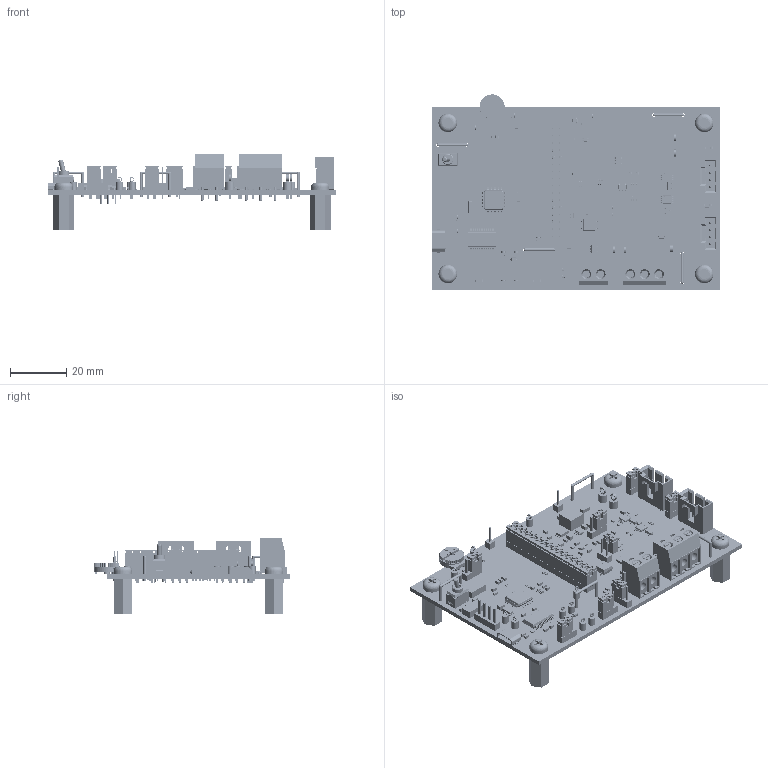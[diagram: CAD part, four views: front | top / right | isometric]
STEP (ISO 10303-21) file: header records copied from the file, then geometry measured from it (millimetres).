
FILE_DESCRIPTION(('Open CASCADE Model'),'2;1');
FILE_NAME('Open CASCADE Shape Model','2025-11-14T10:19:01',('Author'),( 'Open CASCADE'),'Open CASCADE STEP processor 7.5','Open CASCADE 7.5' ,'Unknown');
FILE_SCHEMA(('AUTOMOTIVE_DESIGN { 1 0 10303 214 1 1 1 1 }'));
Length unit declared in the file: millimetre
Products named in the file (433): PCB; Board; Open CASCADE STEP translator 7.5 1.1.1; TP29; 6598490848; Cylinder; 6598490528; Sphere; 6598490208; Q2; SOT-416; C27; 6598486928; Extruded; 6598486688; C20; 6598487808; 6598487648; R54; 6598484688; 6598484528; R53; R52; D13; 6598490048; 6598489888; 6598489728; 6598489568; 6598489408; R45; U6; DBV0005A; DBV0005A_2; DBV0005A_1; TP3; Keystone_5009; KeystoneCompact_wire; Keystone5009_yellow; TP4; SW1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
Assembly tree (784 placements, depth 5):
  PCB
    Board
      Open CASCADE STEP translator 7.5 1.1.1
    TP29
      6598490848  x2
        Cylinder
      6598490528  x2
        Sphere
      6598490208
        Cylinder
    Q2
      SOT-416
    C27
      6598486928  x2
        Extruded
      6598486688
        Extruded
    C20
      6598487808  x2
        Extruded
      6598487648
        Extruded
    R54
      6598484688  x2
        Extruded
      6598484528
        Extruded
    R53
      6598484688  x2
        Extruded
      6598484528
        Extruded
    R52
      6598484688  x2
        Extruded
      6598484528
        Extruded
    D13
      6598490048
        Extruded
      6598489888
        Extruded
      6598489728
        Extruded
      6598489568
        Extruded
      6598489408
        Extruded
    R45
      6598487808  x2
        Extruded
      6598487648
        Extruded
    U6
      DBV0005A
        DBV0005A_2
        DBV0005A_1  x5
    TP3
      Keystone_5009
        KeystoneCompact_wire
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Bounding box: 102.2 x 69.42 x 27.31 mm (x, y, z)
Volume: 19268.3 mm3; surface area: 37235.8 mm2
Topology: 884 solids, 889 shells, 15302 faces, 39075 edges, 25583 vertices
Faces by surface type: plane 12047, cylinder 2123, bspline 866, sphere 140, cone 120, torus 6
Full cylindrical faces by diameter (mm): 0.023 x1, 0.4 x20, 0.66 x5, 0.85 x3, 0.9 x1, 1 x5, 1.016 x69, 1.05 x12, 1.09 x8, 1.25 x5, 1.3 x8, 1.5 x5, 1.6 x5, 2.5 x20, 2.845 x56, 3 x5, 3.2 x13, 6.604 x4
Entity records: 192446 total; most frequent: CARTESIAN_POINT 41977, ORIENTED_EDGE 27982, DIRECTION 26026, EDGE_CURVE 13991, LINE 10412, VECTOR 10412, VERTEX_POINT 9160, AXIS2_PLACEMENT_3D 7807
